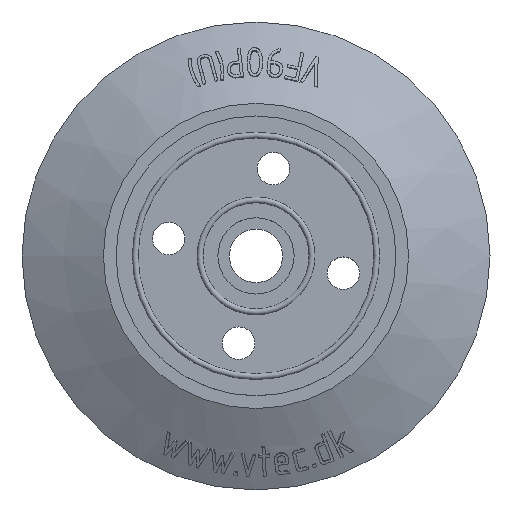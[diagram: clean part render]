
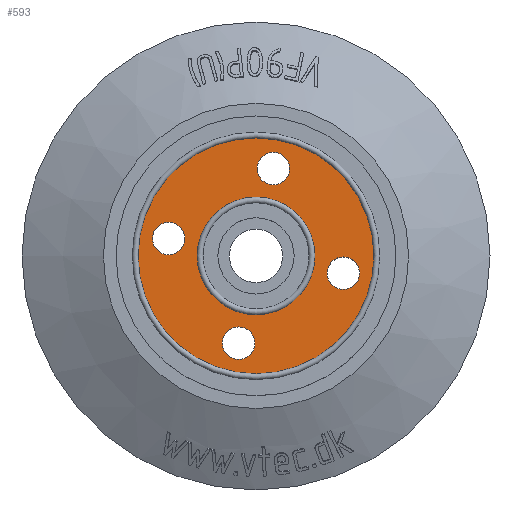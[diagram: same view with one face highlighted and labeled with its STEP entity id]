
A CAD part, top view. The second image highlights one B-rep face of the part: STEP entity #593.
In plain terms, the highlighted planar face has unit normal (0, 0, 1).
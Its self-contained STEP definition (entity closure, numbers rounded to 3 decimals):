
#593 = ADVANCED_FACE( '', ( #1679, #1680, #1681, #1682, #1683, #1684 ), #1685, .T. );
#1679 = FACE_OUTER_BOUND( '', #3715, .T. );
#1680 = FACE_BOUND( '', #3716, .T. );
#1681 = FACE_BOUND( '', #3717, .T. );
#1682 = FACE_BOUND( '', #3718, .T. );
#1683 = FACE_BOUND( '', #3719, .T. );
#1684 = FACE_BOUND( '', #3720, .T. );
#1685 = PLANE( '', #3721 );
#3715 = EDGE_LOOP( '', ( #10441 ) );
#3716 = EDGE_LOOP( '', ( #10442 ) );
#3717 = EDGE_LOOP( '', ( #10443 ) );
#3718 = EDGE_LOOP( '', ( #10444 ) );
#3719 = EDGE_LOOP( '', ( #10445 ) );
#3720 = EDGE_LOOP( '', ( #10446 ) );
#3721 = AXIS2_PLACEMENT_3D( '', #10447, #10448, #10449 );
#10441 = ORIENTED_EDGE( '', *, *, #15339, .T. );
#10442 = ORIENTED_EDGE( '', *, *, #15340, .F. );
#10443 = ORIENTED_EDGE( '', *, *, #15341, .F. );
#10444 = ORIENTED_EDGE( '', *, *, #15342, .F. );
#10445 = ORIENTED_EDGE( '', *, *, #15343, .F. );
#10446 = ORIENTED_EDGE( '', *, *, #15344, .F. );
#10447 = CARTESIAN_POINT( '', ( 11.566, 0., 6.3 ) );
#10448 = DIRECTION( '', ( 0., 0., 1. ) );
#10449 = DIRECTION( '', ( 1., 0., 0. ) );
#15339 = EDGE_CURVE( '', #17385, #17385, #17386, .F. );
#15340 = EDGE_CURVE( '', #17387, #17387, #17388, .T. );
#15341 = EDGE_CURVE( '', #17389, #17389, #17390, .T. );
#15342 = EDGE_CURVE( '', #17391, #17391, #17392, .T. );
#15343 = EDGE_CURVE( '', #17393, #17393, #17394, .T. );
#15344 = EDGE_CURVE( '', #17395, #17395, #17396, .T. );
#17385 = VERTEX_POINT( '', #20447 );
#17386 = CIRCLE( '', #20448, 23.184 );
#17387 = VERTEX_POINT( '', #20449 );
#17388 = CIRCLE( '', #20450, 3.2 );
#17389 = VERTEX_POINT( '', #20451 );
#17390 = CIRCLE( '', #20452, 3.2 );
#17391 = VERTEX_POINT( '', #20453 );
#17392 = CIRCLE( '', #20454, 3.2 );
#17393 = VERTEX_POINT( '', #20455 );
#17394 = CIRCLE( '', #20456, 3.2 );
#17395 = VERTEX_POINT( '', #20457 );
#17396 = CIRCLE( '', #20458, 11.566 );
#20447 = CARTESIAN_POINT( '', ( 0., 23.184, 6.3 ) );
#20448 = AXIS2_PLACEMENT_3D( '', #26047, #26048, #26049 );
#20449 = CARTESIAN_POINT( '', ( 17.164, -6.614, 6.3 ) );
#20450 = AXIS2_PLACEMENT_3D( '', #26050, #26051, #26052 );
#20451 = CARTESIAN_POINT( '', ( 3.414, 13.964, 6.3 ) );
#20452 = AXIS2_PLACEMENT_3D( '', #26053, #26054, #26055 );
#20453 = CARTESIAN_POINT( '', ( -17.164, 0.214, 6.3 ) );
#20454 = AXIS2_PLACEMENT_3D( '', #26056, #26057, #26058 );
#20455 = CARTESIAN_POINT( '', ( -3.414, -20.364, 6.3 ) );
#20456 = AXIS2_PLACEMENT_3D( '', #26059, #26060, #26061 );
#20457 = CARTESIAN_POINT( '', ( 0., -11.566, 6.3 ) );
#20458 = AXIS2_PLACEMENT_3D( '', #26062, #26063, #26064 );
#26047 = CARTESIAN_POINT( '', ( 0., 0., 6.3 ) );
#26048 = DIRECTION( '', ( 0., 0., -1. ) );
#26049 = DIRECTION( '', ( 0., 1., 0. ) );
#26050 = CARTESIAN_POINT( '', ( 17.164, -3.414, 6.3 ) );
#26051 = DIRECTION( '', ( 0., 0., 1. ) );
#26052 = DIRECTION( '', ( 0., -1., 0. ) );
#26053 = CARTESIAN_POINT( '', ( 3.414, 17.164, 6.3 ) );
#26054 = DIRECTION( '', ( 0., 0., 1. ) );
#26055 = DIRECTION( '', ( 0., -1., 0. ) );
#26056 = CARTESIAN_POINT( '', ( -17.164, 3.414, 6.3 ) );
#26057 = DIRECTION( '', ( 0., 0., 1. ) );
#26058 = DIRECTION( '', ( 0., -1., 0. ) );
#26059 = CARTESIAN_POINT( '', ( -3.414, -17.164, 6.3 ) );
#26060 = DIRECTION( '', ( 0., 0., 1. ) );
#26061 = DIRECTION( '', ( 0., -1., 0. ) );
#26062 = CARTESIAN_POINT( '', ( 0., 0., 6.3 ) );
#26063 = DIRECTION( '', ( 0., 0., 1. ) );
#26064 = DIRECTION( '', ( 0., -1., 0. ) );
